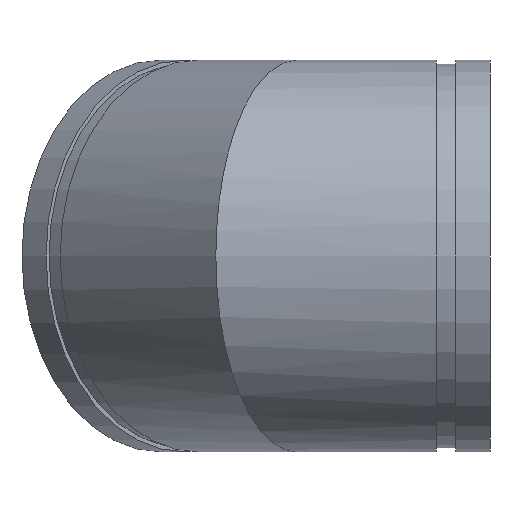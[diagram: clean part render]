
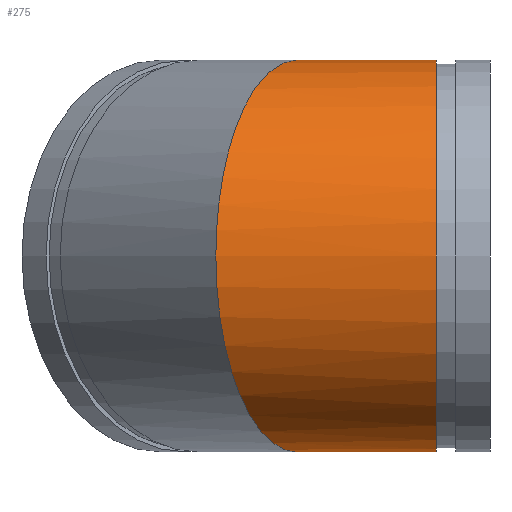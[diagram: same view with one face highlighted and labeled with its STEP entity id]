
A CAD part, left-side view. The second image highlights one B-rep face of the part: STEP entity #275.
In plain terms, the highlighted cylindrical face has radius 109.537 mm (diameter 219.075 mm), a full revolution.
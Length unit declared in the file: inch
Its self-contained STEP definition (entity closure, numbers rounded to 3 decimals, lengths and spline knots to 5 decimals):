
#48=ELLIPSE('',#329,4.66782,4.3125);
#49=ELLIPSE('',#330,4.66782,4.3125);
#50=ELLIPSE('',#331,4.66782,4.3125);
#73=FACE_OUTER_BOUND('',#91,.T.);
#91=EDGE_LOOP('',(#225,#226,#227,#228,#229,#230));
#103=LINE('',#513,#111);
#111=VECTOR('',#416,4.3125);
#117=CIRCLE('',#305,4.3125);
#133=VERTEX_POINT('',#468);
#148=VERTEX_POINT('',#512);
#149=VERTEX_POINT('',#514);
#150=VERTEX_POINT('',#516);
#156=EDGE_CURVE('',#133,#133,#117,.T.);
#176=EDGE_CURVE('',#133,#148,#103,.T.);
#177=EDGE_CURVE('',#148,#149,#48,.T.);
#178=EDGE_CURVE('',#150,#149,#49,.T.);
#179=EDGE_CURVE('',#150,#148,#50,.T.);
#225=ORIENTED_EDGE('',*,*,#156,.T.);
#226=ORIENTED_EDGE('',*,*,#176,.T.);
#227=ORIENTED_EDGE('',*,*,#177,.T.);
#228=ORIENTED_EDGE('',*,*,#178,.F.);
#229=ORIENTED_EDGE('',*,*,#179,.T.);
#230=ORIENTED_EDGE('',*,*,#176,.F.);
#247=CYLINDRICAL_SURFACE('',#328,4.3125);
#275=ADVANCED_FACE('',(#73),#247,.T.);
#305=AXIS2_PLACEMENT_3D('',#469,#363,#364);
#328=AXIS2_PLACEMENT_3D('',#511,#414,#415);
#329=AXIS2_PLACEMENT_3D('',#515,#417,#418);
#330=AXIS2_PLACEMENT_3D('',#517,#419,#420);
#331=AXIS2_PLACEMENT_3D('',#518,#421,#422);
#363=DIRECTION('center_axis',(0.,1.,0.));
#364=DIRECTION('ref_axis',(1.,0.,0.));
#414=DIRECTION('center_axis',(0.,-1.,0.));
#415=DIRECTION('ref_axis',(1.,0.,0.));
#416=DIRECTION('',(0.,1.,0.));
#417=DIRECTION('center_axis',(-0.383,-0.924,0.));
#418=DIRECTION('ref_axis',(0.924,-0.383,0.));
#419=DIRECTION('center_axis',(0.383,0.924,0.));
#420=DIRECTION('ref_axis',(0.924,-0.383,0.));
#421=DIRECTION('center_axis',(-0.383,-0.924,0.));
#422=DIRECTION('ref_axis',(0.924,-0.383,0.));
#468=CARTESIAN_POINT('',(-4.3125,-3.062,0.));
#469=CARTESIAN_POINT('Origin',(0.,-3.062,0.));
#511=CARTESIAN_POINT('Origin',(0.,0.,0.));
#512=CARTESIAN_POINT('',(-4.3125,1.7863,0.));
#513=CARTESIAN_POINT('',(-4.3125,0.,0.));
#514=CARTESIAN_POINT('',(0.,0.,-4.3125));
#515=CARTESIAN_POINT('Origin',(0.,0.,
0.));
#516=CARTESIAN_POINT('',(0.,0.,4.3125));
#517=CARTESIAN_POINT('Origin',(0.,0.,0.));
#518=CARTESIAN_POINT('Origin',(0.,0.,
0.));
